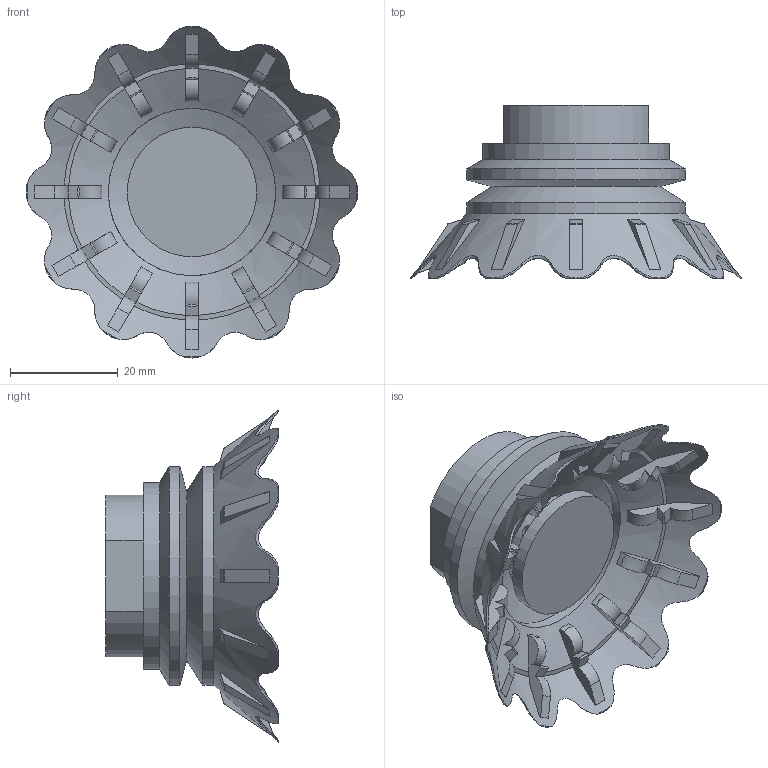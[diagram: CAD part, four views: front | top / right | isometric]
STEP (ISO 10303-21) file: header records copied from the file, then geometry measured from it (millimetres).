
FILE_DESCRIPTION (( 'STEP AP214' ), '1' );
FILE_NAME ('10F.060.002.02-G38F.STEP', '2024-06-11T15:16:26', ( '' ), ( '' ), 'SwSTEP 2.0', 'SolidWorks 2018', '' );
FILE_SCHEMA (( 'AUTOMOTIVE_DESIGN' ));
Length unit declared in the file: inch
Products named in the file (3): 10F.060.002.02-G38F; 403.017; 10F.060.002.02
Assembly tree (2 placements, depth 2):
  10F.060.002.02-G38F
    10F.060.002.02
    403.017
Bounding box: 61.5 x 32 x 61.5 mm (x, y, z)
Volume: 18453.6 mm3; surface area: 15578.5 mm2
Topology: 2 solids, 2 shells, 332 faces, 926 edges, 602 vertices
Faces by surface type: plane 121, cone 105, cylinder 58, torus 48
Full cylindrical faces by diameter (mm): 3 x8, 15.25 x1, 16.65 x1, 19.15 x1, 24 x1, 25.15 x1, 25.75 x1, 31 x2, 31.6 x1, 34.5 x1, 40.5 x2
Entity records: 13497 total; most frequent: CARTESIAN_POINT 5853, ORIENTED_EDGE 1768, DIRECTION 1226, EDGE_CURVE 884, VERTEX_POINT 592, AXIS2_PLACEMENT_3D 549, B_SPLINE_CURVE_WITH_KNOTS 544, EDGE_LOOP 410
